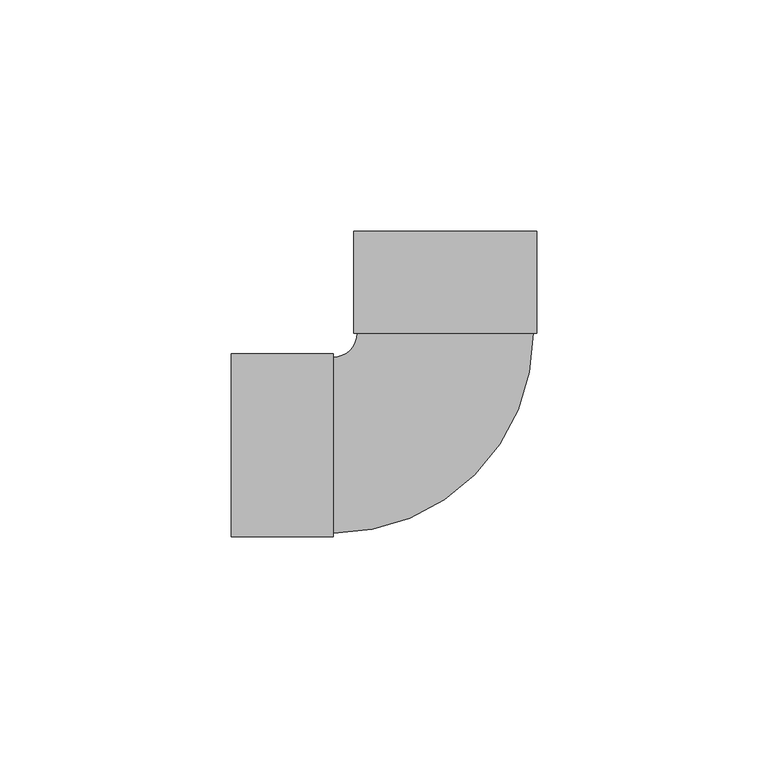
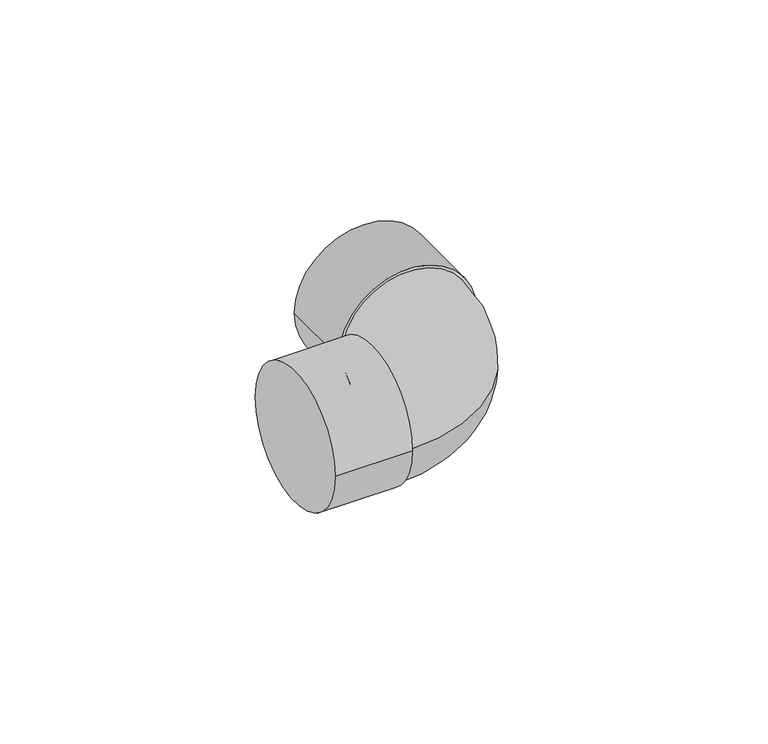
"""IFC4 building model written with IfcOpenShell, lengths in millimetres: pipe fitting geometry, Cotovelo - Soldado - CU : Padrão."""

from ifc_helpers import new_model, si_unit, point, frame, origin, place, context, project, spatial, circle_curve, ellipse_curve, trimmed, source, transform, mapped, element, save
from ifc_brep_helpers import plane_surface, cylinder_surface, revolved_surface, advanced_brep


def pipe_fitting_65edd11d(model_context):
    return source(origin(), model_context, "Body", "AdvancedBrep", [
        advanced_brep(
        [(-19.05, 24.211, 0.0), (-24.211, 19.05, 0.0), (-24.211, -19.05, 0.0), (19.05, 24.211, 0.0), (-46.318, -19.831, 0.0), (-46.318, 19.831, 0.0), (-24.211, -19.831, 0.0), (-24.211, 19.831, 0.0), (-19.831, 46.318, 0.0), (19.831, 46.318, 0.0), (-19.831, 24.211, 0.0), (19.831, 24.211, 0.0)],
        [
            (0, 1, circle_curve(frame((-24.211, 24.211, 0.0), z_axis=(0.0, 0.0, -1.0), x_axis=(0.0, -1.0, 0.0)), 5.161)),
            (1, 2, circle_curve(frame((-24.211, 0.0, 0.0), z_axis=(1.0, 0.0, 0.0), x_axis=(0.0, 1.0, 0.0)), 19.05)),
            (2, 3, circle_curve(frame((-24.211, 24.211, 0.0), z_axis=(0.0, 0.0, 1.0), x_axis=(0.0, -1.0, 0.0)), 43.261)),
            (3, 0, circle_curve(frame((0.0, 24.211, 0.0), z_axis=(0.0, -1.0, 0.0), x_axis=(-1.0, 0.0, 0.0)), 19.05)),
            (0, 3, circle_curve(frame((0.0, 24.211, 0.0), z_axis=(0.0, -1.0, 0.0), x_axis=(-1.0, 0.0, 0.0)), 19.05)),
            (2, 1, circle_curve(frame((-24.211, 0.0, 0.0), z_axis=(1.0, 0.0, 0.0), x_axis=(0.0, 1.0, 0.0)), 19.05)),
            (4, 5, circle_curve(frame((-46.318, 0.0, 0.0), z_axis=(-1.0, 0.0, 0.0), x_axis=(0.0, 1.0, 0.0)), 19.831)),
            (5, 4, circle_curve(frame((-46.318, 0.0, 0.0), z_axis=(-1.0, 0.0, 0.0), x_axis=(0.0, 1.0, 0.0)), 19.831)),
            (6, 7, circle_curve(frame((-24.211, 0.0, 0.0), z_axis=(1.0, 0.0, 0.0), x_axis=(0.0, 1.0, 0.0)), 19.831)),
            (7, 6, circle_curve(frame((-24.211, 0.0, 0.0), z_axis=(1.0, 0.0, 0.0), x_axis=(0.0, 1.0, 0.0)), 19.831)),
            (4, 6),
            (7, 5),
            (8, 9, circle_curve(frame((0.0, 46.318, 0.0), z_axis=(0.0, 1.0, 0.0), x_axis=(1.0, 0.0, 0.0)), 19.831)),
            (9, 8, circle_curve(frame((0.0, 46.318, 0.0), z_axis=(0.0, 1.0, 0.0), x_axis=(1.0, 0.0, 0.0)), 19.831)),
            (10, 11, circle_curve(frame((0.0, 24.211, 0.0), z_axis=(0.0, -1.0, 0.0), x_axis=(1.0, 0.0, 0.0)), 19.831)),
            (11, 10, circle_curve(frame((0.0, 24.211, 0.0), z_axis=(0.0, -1.0, 0.0), x_axis=(1.0, 0.0, 0.0)), 19.831)),
            (8, 10),
            (11, 9),
        ],
        [
            revolved_surface(trimmed(ellipse_curve(frame((-24.211, 0.0, 0.0), z_axis=(-1.0, 0.0, 0.0), x_axis=(0.0, 1.0, 0.0)), 19.05, 19.05), [point((-24.211, -19.05, 0.0))], [point((-24.211, 19.05, 0.0))], True, "CARTESIAN"), (-24.211, 24.211, 0.0), (0.0, 0.0, 1.0)),
            revolved_surface(trimmed(ellipse_curve(frame((-24.211, 0.0, 0.0), z_axis=(-1.0, 0.0, 0.0), x_axis=(0.0, 1.0, 0.0)), 19.05, 19.05), [point((-24.211, 19.05, 0.0))], [point((-24.211, -19.05, 0.0))], True, "CARTESIAN"), (-24.211, 24.211, 0.0), (0.0, 0.0, 1.0)),
            plane_surface(frame((-46.318, 0.0, 0.0), z_axis=(-1.0, 0.0, 0.0), x_axis=(0.0, 0.0, 1.0))),
            plane_surface(frame((-24.211, 0.0, 0.0), z_axis=(1.0, 0.0, 0.0), x_axis=(0.0, 0.0, 1.0))),
            cylinder_surface(frame((-46.318, 0.0, 0.0), z_axis=(-1.0, 0.0, 0.0), x_axis=(0.0, 1.0, 0.0)), 19.831),
            plane_surface(frame((0.0, 46.318, 0.0), z_axis=(0.0, 1.0, 0.0), x_axis=(0.0, 0.0, 1.0))),
            plane_surface(frame((0.0, 24.211, 0.0), z_axis=(0.0, -1.0, 0.0), x_axis=(0.0, 0.0, 1.0))),
            cylinder_surface(frame((0.0, 46.318, 0.0), z_axis=(0.0, 1.0, 0.0), x_axis=(1.0, 0.0, 0.0)), 19.831),
        ],
        [
            (0, [[1, 2, 3, 4]]),
            (1, [[-1, 5, -3, 6]]),
            (2, [[7, 8]]),
            (3, [[9, 10], [-2, -6]]),
            (4, [[-7, 11, -10, 12]]),
            (4, [[-8, -12, -9, -11]]),
            (5, [[13, 14]]),
            (6, [[15, 16], [-4, -5]]),
            (7, [[-13, 17, -16, 18]]),
            (7, [[-14, -18, -15, -17]]),
        ],
    ),
    ])


if __name__ == "__main__":
    model = new_model("IFC4")
    model_context = context("Model", 3, world=origin())
    ifc_project = project(units=[si_unit("LENGTHUNIT", "METRE", prefix="MILLI")], contexts=[model_context])
    site = spatial("IfcSite", under=ifc_project)
    building = spatial("IfcBuilding", under=site)
    placement = place(None, origin())
    pipe_fitting_shape = pipe_fitting_65edd11d(model_context)
    element("IfcPipeFitting", 1, ObjectType="Cotovelo - Soldado - CU : Padrão", at=placement, inside=building, context=model_context, shape_type="MappedRepresentation", body=[
        mapped(pipe_fitting_shape, transform((0.0, 0.0, 0.0), x_axis=(1.0, 0.0, 0.0), y_axis=(0.0, 1.0, 0.0), z_axis=(0.0, 0.0, 1.0))),
    ])
    save(model, "model.ifc")
